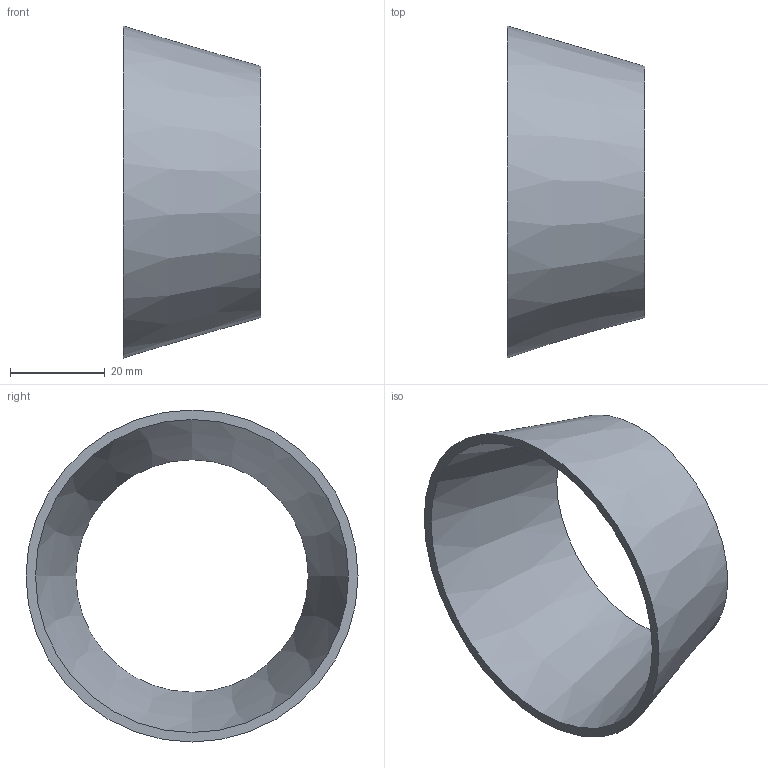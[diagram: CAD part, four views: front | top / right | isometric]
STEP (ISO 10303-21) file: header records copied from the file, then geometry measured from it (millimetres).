
FILE_DESCRIPTION(('FreeCAD Model'),'2;1');
FILE_NAME( '/home/martin/Documents/proyect/accesorios/stp/red-con_DN65-50.step', '2017-12-31T12:23:29',('Author'),(''), 'Open CASCADE STEP processor 6.8','FreeCAD','Unknown');
FILE_SCHEMA(('AUTOMOTIVE_DESIGN_CC2 { 1 2 10303 214 -1 1 5 4 }'));
Length unit declared in the file: millimetre
Products named in the file (1): red-con_DN65-50
Bounding box: 29 x 70 x 70 mm (x, y, z)
Volume: 10841.6 mm3; surface area: 12045.4 mm2
Topology: 1 solids, 1 shells, 4 faces, 6 edges, 4 vertices
Faces by surface type: cone 2, plane 2
Entity records: 191 total; most frequent: CARTESIAN_POINT 33, DIRECTION 26, ORIENTED_EDGE 12, PCURVE 12, DEFINITIONAL_REPRESENTATION 12, AXIS2_PLACEMENT_3D 9, CIRCLE 8, FACE_BOUND 6
